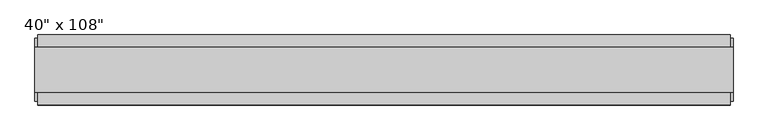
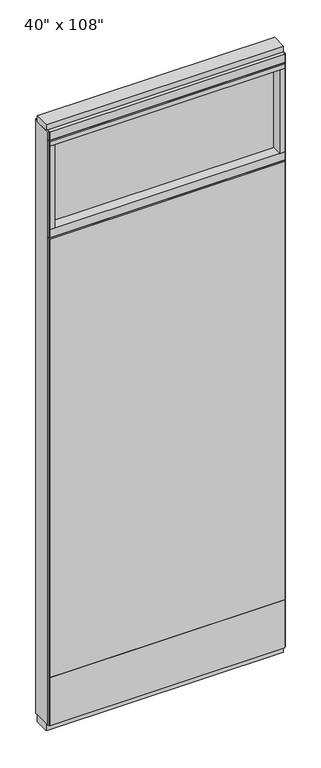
"""IFC4 building model written with IfcOpenShell, lengths in millimetres: furniture geometry."""

from ifc_helpers import new_model, si_unit, frame, origin, origin_with_axes, place, context, project, spatial, polyline, outline, extrude, source, transform, mapped, element, save


def furniture_cd05365a(model_context):
    return source(origin(), model_context, "Body", "SweptSolid", [
        extrude(outline(polyline([(444.0264771, 46.2822784), (444.0264771, 33.5822784), (-564.0995229, 33.5822784), (-564.0995229, 46.2822784), (444.0264771, 46.2822784)])), frame((0.0, 0.0, 249.936), z_axis=(0.0, 0.0, 1.0), x_axis=(1.0, 0.0, 0.0)), (0.0, 0.0, 1.0), 1985.264),
        extrude(outline(polyline([(444.0264771, -55.3177216), (-564.0995229, -55.3177216), (-564.0995229, -42.6177216), (444.0264771, -42.6177216), (444.0264771, -55.3177216)])), frame((0.0, 0.0, 249.936), z_axis=(0.0, 0.0, 1.0), x_axis=(1.0, 0.0, 0.0)), (0.0, 0.0, 1.0), 1985.264),
        extrude(outline(polyline([(444.0264771, 46.2822784), (444.0264771, 33.5822784), (-564.0995229, 33.5822784), (-564.0995229, 46.2822784), (444.0264771, 46.2822784)])), frame((0.0, 0.0, 31.75), z_axis=(0.0, 0.0, 1.0), x_axis=(1.0, 0.0, 0.0)), (0.0, 0.0, 1.0), 218.186),
        extrude(outline(polyline([(444.0264771, -55.3177216), (-564.0995229, -55.3177216), (-564.0995229, -42.6177216), (444.0264771, -42.6177216), (444.0264771, -55.3177216)])), frame((0.0, 0.0, 31.75), z_axis=(0.0, 0.0, 1.0), x_axis=(1.0, 0.0, 0.0)), (0.0, 0.0, 1.0), 218.186),
        extrude(outline(polyline([(421.8014771, -9.5977216), (-541.8745229, -9.5977216), (-541.8745229, 0.5622784), (421.8014771, 0.5622784), (421.8014771, -9.5977216)])), frame((0.0, 0.0, 2276.475), z_axis=(0.0, 0.0, 1.0), x_axis=(1.0, 0.0, 0.0)), (0.0, 0.0, 1.0), 377.825),
        extrude(outline(polyline([(421.8014771, -55.3177216), (421.8014771, 46.2822784), (444.0264771, 46.2822784), (444.0264771, -55.3177216), (421.8014771, -55.3177216)])), frame((0.0, 0.0, 2276.475), z_axis=(0.0, 0.0, 1.0), x_axis=(1.0, 0.0, 0.0)), (0.0, 0.0, 1.0), 377.825),
        extrude(outline(polyline([(-55.3177216, 2240.153), (-55.3177216, 2276.475), (46.2822784, 2276.475), (46.2822784, 2240.153), (41.3292784, 2240.153), (41.3292784, 2235.2), (-50.3647216, 2235.2), (-50.3647216, 2240.153), (-55.3177216, 2240.153)])), frame((-564.0995229, 0.0, 0.0), z_axis=(1.0, 0.0, 0.0), x_axis=(0.0, 1.0, 0.0)), (0.0, 0.0, 1.0), 1008.126),
        extrude(outline(polyline([(-541.8745229, -55.3177216), (-564.0995229, -55.3177216), (-564.0995229, 46.2822784), (-541.8745229, 46.2822784), (-541.8745229, -55.3177216)])), frame((0.0, 0.0, 2276.475), z_axis=(0.0, 0.0, 1.0), x_axis=(1.0, 0.0, 0.0)), (0.0, 0.0, 1.0), 377.825),
        extrude(outline(polyline([(447.9634771, 27.9942784), (447.9634771, -37.0297216), (-568.0365229, -37.0297216), (-568.0365229, 27.9942784), (447.9634771, 27.9942784)])), origin_with_axes(), (0.0, 0.0, 1.0), 31.75),
        extrude(outline(polyline([(-568.0365229, -37.0297216), (-568.0365229, 27.9942784), (447.9634771, 27.9942784), (447.9634771, -37.0297216), (-568.0365229, -37.0297216)])), frame((0.0, 0.0, 2717.8), z_axis=(0.0, 0.0, 1.0), x_axis=(1.0, 0.0, 0.0)), (0.0, 0.0, 1.0), 25.4),
        extrude(outline(polyline([(-55.3177216, 2681.478), (-55.3177216, 2717.8), (46.2822784, 2717.8), (46.2822784, 2681.478), (41.3292784, 2681.478), (41.3292784, 2676.525), (-50.3647216, 2676.525), (-50.3647216, 2681.478), (-55.3177216, 2681.478)])), frame((-564.0995229, 0.0, 0.0), z_axis=(1.0, 0.0, 0.0), x_axis=(0.0, 1.0, 0.0)), (0.0, 0.0, 1.0), 1008.126),
        extrude(outline(polyline([(444.0264771, 46.2822784), (444.0264771, -55.3177216), (-564.0995229, -55.3177216), (-564.0995229, 46.2822784), (444.0264771, 46.2822784)])), frame((0.0, 0.0, 2654.3), z_axis=(0.0, 0.0, 1.0), x_axis=(1.0, 0.0, 0.0)), (0.0, 0.0, 1.0), 22.225),
        extrude(outline(polyline([(447.9634771, -50.3647216), (444.0264771, -50.3647216), (444.0264771, 41.3292784), (447.9634771, 41.3292784), (447.9634771, -50.3647216)])), frame((0.0, 0.0, 31.75), z_axis=(0.0, 0.0, 1.0), x_axis=(1.0, 0.0, 0.0)), (0.0, 0.0, 1.0), 2686.05),
        extrude(outline(polyline([(-568.0365229, -50.3647216), (-568.0365229, 41.3292784), (-564.0995229, 41.3292784), (-564.0995229, -50.3647216), (-568.0365229, -50.3647216)])), frame((0.0, 0.0, 31.75), z_axis=(0.0, 0.0, 1.0), x_axis=(1.0, 0.0, 0.0)), (0.0, 0.0, 1.0), 2686.05),
    ])


if __name__ == "__main__":
    model = new_model("IFC4")
    model_context = context("Model", 3, world=origin())
    ifc_project = project(units=[si_unit("LENGTHUNIT", "METRE", prefix="MILLI")], contexts=[model_context])
    site = spatial("IfcSite", under=ifc_project)
    building = spatial("IfcBuilding", under=site)
    placement = place(None, origin())
    furniture_shape = furniture_cd05365a(model_context)
    element("IfcFurniture", 1, ObjectType="Haworth_Enclose_Wall_SolidTransom : 40\" x 108\"", at=placement, inside=building, context=model_context, shape_type="MappedRepresentation", body=[
        mapped(furniture_shape, transform((0.0, 0.0, 0.0), x_axis=(1.0, 0.0, 0.0), y_axis=(0.0, 1.0, 0.0), z_axis=(0.0, 0.0, 1.0))),
    ])
    save(model, "model.ifc")
